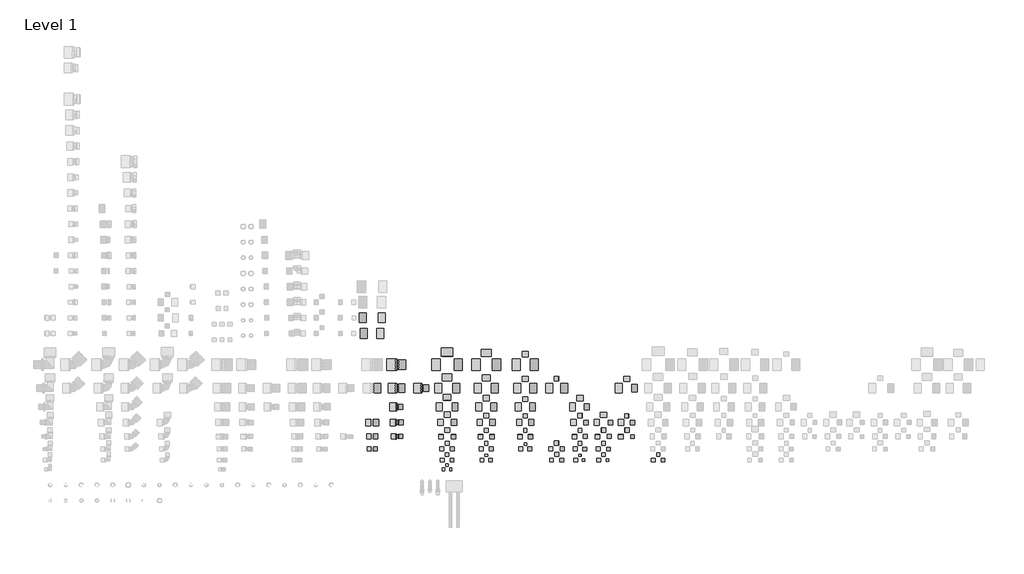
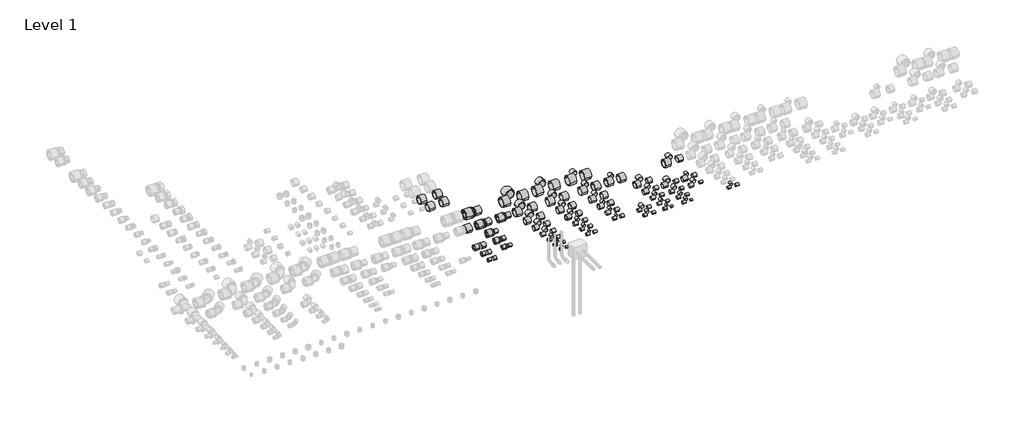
# One storey, part 4 of 6: 140 pipe fittings.
"""IFC4 building model written with IfcOpenShell, lengths in millimetres."""

from ifc_helpers import new_model, si_unit, origin, place, context, project, spatial, transform, mapped, element, save
from components import pipe_fitting_fca7ca8d, pipe_fitting_709f2c42, pipe_fitting_0746f0ab, pipe_fitting_6fe5a3bb, pipe_fitting_396ce9a4, pipe_fitting_1876d1a3, pipe_fitting_37e15ff8, pipe_fitting_5c01712a, pipe_fitting_b25a488c, pipe_fitting_fb40a9e9, pipe_fitting_0c5808d9, pipe_fitting_c324f43b, pipe_fitting_f25a30e4, pipe_fitting_75713d5f, pipe_fitting_c9c9eba3, pipe_fitting_749d9a03, pipe_fitting_037c3912, pipe_fitting_a8fbe6ac, pipe_fitting_d8f8e9d9, pipe_fitting_02b715f6, pipe_fitting_7a5bf8d1, pipe_fitting_cb618aad

model = new_model("IFC4")

# Units and contexts
model_context = context("Model", 3, world=origin())
ifc_project = project(units=[si_unit("LENGTHUNIT", "METRE", prefix="MILLI")], contexts=[model_context])

# Site, building, storey
site = spatial("IfcSite", under=ifc_project)
building = spatial("IfcBuilding", under=site)
storey = spatial("IfcBuildingStorey", under=building, Name="Level 1", Elevation=0.0)

# Pipe fittings
placement = place(None, origin())
pipe_fitting_shape = pipe_fitting_fca7ca8d(model_context)
element("IfcPipeFitting", 1, ObjectType="RAUTITAN_Transition_RX+ : RTI RX+ Tr DE", at=placement, inside=storey, context=model_context, shape_type="MappedRepresentation", body=[
    mapped(pipe_fitting_shape, transform((2220.0, 300.0, 0.0), x_axis=(1.0, 0.0, 0.0), y_axis=(0.0, 1.0, 0.0), z_axis=(0.0, 0.0, 1.0))),
])
pipe_fitting_2_shape = pipe_fitting_709f2c42(model_context)
element("IfcPipeFitting", 2, ObjectType="RAUTITAN_Sleeve SDR 7,4 : RTI S SDR 7,4", at=placement, inside=storey, context=model_context, shape_type="MappedRepresentation", body=[
    mapped(pipe_fitting_2_shape, transform((2555.5, 0.0, 0.0), x_axis=(1.0, 0.0, 0.0), y_axis=(0.0, 1.0, 0.0), z_axis=(0.0, 0.0, 1.0))),
])
element("IfcPipeFitting", 3, ObjectType="RAUTITAN_Sleeve SDR 7,4 : RTI S SDR 7,4", at=placement, inside=storey, context=model_context, shape_type="MappedRepresentation", body=[
    mapped(pipe_fitting_2_shape, transform((2524.5, 0.0, 0.0), x_axis=(-1.0, 0.0, 0.0), y_axis=(0.0, -1.0, 0.0), z_axis=(0.0, 0.0, 1.0))),
])
element("IfcPipeFitting", 4, ObjectType="RAUTITAN_Sleeve SDR 7,4 : RTI S SDR 7,4", at=placement, inside=storey, context=model_context, shape_type="MappedRepresentation", body=[
    mapped(pipe_fitting_2_shape, transform((2540.0, 20.0, 0.0), x_axis=(0.0, 1.0, 0.0), y_axis=(-1.0, 0.0, 0.0), z_axis=(0.0, 0.0, 1.0))),
])
element("IfcPipeFitting", 5, ObjectType="RAUTITAN_Sleeve SDR 7,4 : RTI S SDR 7,4", at=placement, inside=storey, context=model_context, shape_type="MappedRepresentation", body=[
    mapped(pipe_fitting_2_shape, transform((2790.0, 82.0, 0.0), x_axis=(0.0, 1.0, 0.0), y_axis=(-1.0, 0.0, 0.0), z_axis=(0.0, 0.0, 1.0))),
])
element("IfcPipeFitting", 6, ObjectType="RAUTITAN_Sleeve SDR 7,4 : RTI S SDR 7,4", at=placement, inside=storey, context=model_context, shape_type="MappedRepresentation", body=[
    mapped(pipe_fitting_2_shape, transform((3040.0, 153.4, 0.0), x_axis=(0.0, 1.0, 0.0), y_axis=(-1.0, 0.0, 0.0), z_axis=(0.0, 0.0, 1.0))),
])
element("IfcPipeFitting", 7, ObjectType="RAUTITAN_Sleeve SDR 7,4 : RTI S SDR 7,4", at=placement, inside=storey, context=model_context, shape_type="MappedRepresentation", body=[
    mapped(pipe_fitting_2_shape, transform((3405.5, 60.0, 0.0), x_axis=(1.0, 0.0, 0.0), y_axis=(0.0, 1.0, 0.0), z_axis=(0.0, 0.0, 1.0))),
])
element("IfcPipeFitting", 8, ObjectType="RAUTITAN_Sleeve SDR 7,4 : RTI S SDR 7,4", at=placement, inside=storey, context=model_context, shape_type="MappedRepresentation", body=[
    mapped(pipe_fitting_2_shape, transform((3390.0, 82.0, 0.0), x_axis=(0.0, 1.0, 0.0), y_axis=(-1.0, 0.0, 0.0), z_axis=(0.0, 0.0, 1.0))),
])
element("IfcPipeFitting", 9, ObjectType="RAUTITAN_Sleeve SDR 7,4 : RTI S SDR 7,4", at=placement, inside=storey, context=model_context, shape_type="MappedRepresentation", body=[
    mapped(pipe_fitting_2_shape, transform((3558.3, 60.0, 0.0), x_axis=(1.0, 0.0, 0.0), y_axis=(0.0, 1.0, 0.0), z_axis=(0.0, 0.0, 1.0))),
])
pipe_fitting_3_shape = pipe_fitting_0746f0ab(model_context)
element("IfcPipeFitting", 10, ObjectType="RAUTITAN_Sleeve SDR 7,4 : RTI S SDR 7,4", at=placement, inside=storey, context=model_context, shape_type="MappedRepresentation", body=[
    mapped(pipe_fitting_3_shape, transform((2558.6, 60.0, 0.0), x_axis=(1.0, 0.0, 0.0), y_axis=(0.0, 1.0, 0.0), z_axis=(0.0, 0.0, 1.0))),
])
element("IfcPipeFitting", 11, ObjectType="RAUTITAN_Sleeve SDR 7,4 : RTI S SDR 7,4", at=placement, inside=storey, context=model_context, shape_type="MappedRepresentation", body=[
    mapped(pipe_fitting_3_shape, transform((2521.4, 60.0, 0.0), x_axis=(-1.0, 0.0, 0.0), y_axis=(0.0, -1.0, 0.0), z_axis=(0.0, 0.0, 1.0))),
])
element("IfcPipeFitting", 12, ObjectType="RAUTITAN_Sleeve SDR 7,4 : RTI S SDR 7,4", at=placement, inside=storey, context=model_context, shape_type="MappedRepresentation", body=[
    mapped(pipe_fitting_3_shape, transform((2540.0, 82.3, 0.0), x_axis=(0.0, 1.0, 0.0), y_axis=(-1.0, 0.0, 0.0), z_axis=(0.0, 0.0, 1.0))),
])
element("IfcPipeFitting", 13, ObjectType="RAUTITAN_Sleeve SDR 7,4 : RTI S SDR 7,4", at=placement, inside=storey, context=model_context, shape_type="MappedRepresentation", body=[
    mapped(pipe_fitting_3_shape, transform((2805.6, 60.0, 0.0), x_axis=(1.0, 0.0, 0.0), y_axis=(0.0, 1.0, 0.0), z_axis=(0.0, 0.0, 1.0))),
])
element("IfcPipeFitting", 14, ObjectType="RAUTITAN_Sleeve SDR 7,4 : RTI S SDR 7,4", at=placement, inside=storey, context=model_context, shape_type="MappedRepresentation", body=[
    mapped(pipe_fitting_3_shape, transform((2774.4, 60.0, 0.0), x_axis=(-1.0, 0.0, 0.0), y_axis=(0.0, -1.0, 0.0), z_axis=(0.0, 0.0, 1.0))),
])
element("IfcPipeFitting", 15, ObjectType="RAUTITAN_Sleeve SDR 7,4 : RTI S SDR 7,4", at=placement, inside=storey, context=model_context, shape_type="MappedRepresentation", body=[
    mapped(pipe_fitting_3_shape, transform((2790.0, 153.7, 0.0), x_axis=(0.0, 1.0, 0.0), y_axis=(-1.0, 0.0, 0.0), z_axis=(0.0, 0.0, 1.0))),
])
element("IfcPipeFitting", 16, ObjectType="RAUTITAN_Sleeve SDR 7,4 : RTI S SDR 7,4", at=placement, inside=storey, context=model_context, shape_type="MappedRepresentation", body=[
    mapped(pipe_fitting_3_shape, transform((3040.0, 236.7, 0.0), x_axis=(0.0, 1.0, 0.0), y_axis=(-1.0, 0.0, 0.0), z_axis=(0.0, 0.0, 1.0))),
])
element("IfcPipeFitting", 17, ObjectType="RAUTITAN_Sleeve SDR 7,4 : RTI S SDR 7,4", at=placement, inside=storey, context=model_context, shape_type="MappedRepresentation", body=[
    mapped(pipe_fitting_3_shape, transform((3374.4, 60.0, 0.0), x_axis=(-1.0, 0.0, 0.0), y_axis=(0.0, -1.0, 0.0), z_axis=(0.0, 0.0, 1.0))),
])
element("IfcPipeFitting", 18, ObjectType="RAUTITAN_Sleeve SDR 7,4 : RTI S SDR 7,4", at=placement, inside=storey, context=model_context, shape_type="MappedRepresentation", body=[
    mapped(pipe_fitting_3_shape, transform((3521.4, 60.0, 0.0), x_axis=(-1.0, 0.0, 0.0), y_axis=(0.0, -1.0, 0.0), z_axis=(0.0, 0.0, 1.0))),
])
element("IfcPipeFitting", 19, ObjectType="RAUTITAN_Sleeve SDR 7,4 : RTI S SDR 7,4", at=placement, inside=storey, context=model_context, shape_type="MappedRepresentation", body=[
    mapped(pipe_fitting_3_shape, transform((3540.0, 82.3, 0.0), x_axis=(0.0, 1.0, 0.0), y_axis=(-1.0, 0.0, 0.0), z_axis=(0.0, 0.0, 1.0))),
])
element("IfcPipeFitting", 20, ObjectType="RAUTITAN_Sleeve SDR 7,4 : RTI S SDR 7,4", at=placement, inside=storey, context=model_context, shape_type="MappedRepresentation", body=[
    mapped(pipe_fitting_3_shape, transform((3714.1, 210.0, 0.0), x_axis=(1.0, 0.0, 0.0), y_axis=(0.0, 1.0, 0.0), z_axis=(0.0, 0.0, 1.0))),
])
pipe_fitting_4_shape = pipe_fitting_6fe5a3bb(model_context)
element("IfcPipeFitting", 21, ObjectType="RAUTITAN_Sleeve SDR 7,4 : RTI S SDR 7,4", at=placement, inside=storey, context=model_context, shape_type="MappedRepresentation", body=[
    mapped(pipe_fitting_4_shape, transform((2561.1, 130.0, 0.0), x_axis=(1.0, 0.0, 0.0), y_axis=(0.0, 1.0, 0.0), z_axis=(0.0, 0.0, 1.0))),
])
element("IfcPipeFitting", 22, ObjectType="RAUTITAN_Sleeve SDR 7,4 : RTI S SDR 7,4", at=placement, inside=storey, context=model_context, shape_type="MappedRepresentation", body=[
    mapped(pipe_fitting_4_shape, transform((2518.9, 130.0, 0.0), x_axis=(-1.0, 0.0, 0.0), y_axis=(0.0, -1.0, 0.0), z_axis=(0.0, 0.0, 1.0))),
])
element("IfcPipeFitting", 23, ObjectType="RAUTITAN_Sleeve SDR 7,4 : RTI S SDR 7,4", at=placement, inside=storey, context=model_context, shape_type="MappedRepresentation", body=[
    mapped(pipe_fitting_4_shape, transform((2540.0, 154.2, 0.0), x_axis=(0.0, 1.0, 0.0), y_axis=(-1.0, 0.0, 0.0), z_axis=(0.0, 0.0, 1.0))),
])
element("IfcPipeFitting", 24, ObjectType="RAUTITAN_Sleeve SDR 7,4 : RTI S SDR 7,4", at=placement, inside=storey, context=model_context, shape_type="MappedRepresentation", body=[
    mapped(pipe_fitting_4_shape, transform((2809.1, 130.0, 0.0), x_axis=(1.0, 0.0, 0.0), y_axis=(0.0, 1.0, 0.0), z_axis=(0.0, 0.0, 1.0))),
])
element("IfcPipeFitting", 25, ObjectType="RAUTITAN_Sleeve SDR 7,4 : RTI S SDR 7,4", at=placement, inside=storey, context=model_context, shape_type="MappedRepresentation", body=[
    mapped(pipe_fitting_4_shape, transform((2770.9, 130.0, 0.0), x_axis=(-1.0, 0.0, 0.0), y_axis=(0.0, -1.0, 0.0), z_axis=(0.0, 0.0, 1.0))),
])
element("IfcPipeFitting", 26, ObjectType="RAUTITAN_Sleeve SDR 7,4 : RTI S SDR 7,4", at=placement, inside=storey, context=model_context, shape_type="MappedRepresentation", body=[
    mapped(pipe_fitting_4_shape, transform((2790.0, 237.2, 0.0), x_axis=(0.0, 1.0, 0.0), y_axis=(-1.0, 0.0, 0.0), z_axis=(0.0, 0.0, 1.0))),
])
element("IfcPipeFitting", 27, ObjectType="RAUTITAN_Sleeve SDR 7,4 : RTI S SDR 7,4", at=placement, inside=storey, context=model_context, shape_type="MappedRepresentation", body=[
    mapped(pipe_fitting_4_shape, transform((3056.1, 130.0, 0.0), x_axis=(1.0, 0.0, 0.0), y_axis=(0.0, 1.0, 0.0), z_axis=(0.0, 0.0, 1.0))),
])
element("IfcPipeFitting", 28, ObjectType="RAUTITAN_Sleeve SDR 7,4 : RTI S SDR 7,4", at=placement, inside=storey, context=model_context, shape_type="MappedRepresentation", body=[
    mapped(pipe_fitting_4_shape, transform((3023.9, 130.0, 0.0), x_axis=(-1.0, 0.0, 0.0), y_axis=(0.0, -1.0, 0.0), z_axis=(0.0, 0.0, 1.0))),
])
element("IfcPipeFitting", 29, ObjectType="RAUTITAN_Sleeve SDR 7,4 : RTI S SDR 7,4", at=placement, inside=storey, context=model_context, shape_type="MappedRepresentation", body=[
    mapped(pipe_fitting_4_shape, transform((3411.1, 210.0, 0.0), x_axis=(1.0, 0.0, 0.0), y_axis=(0.0, 1.0, 0.0), z_axis=(0.0, 0.0, 1.0))),
])
element("IfcPipeFitting", 30, ObjectType="RAUTITAN_Sleeve SDR 7,4 : RTI S SDR 7,4", at=placement, inside=storey, context=model_context, shape_type="MappedRepresentation", body=[
    mapped(pipe_fitting_4_shape, transform((3390.0, 237.2, 0.0), x_axis=(0.0, 1.0, 0.0), y_axis=(-1.0, 0.0, 0.0), z_axis=(0.0, 0.0, 1.0))),
])
element("IfcPipeFitting", 31, ObjectType="RAUTITAN_Sleeve SDR 7,4 : RTI S SDR 7,4", at=placement, inside=storey, context=model_context, shape_type="MappedRepresentation", body=[
    mapped(pipe_fitting_4_shape, transform((3564.6, 210.0, 0.0), x_axis=(1.0, 0.0, 0.0), y_axis=(0.0, 1.0, 0.0), z_axis=(0.0, 0.0, 1.0))),
])
pipe_fitting_5_shape = pipe_fitting_396ce9a4(model_context)
element("IfcPipeFitting", 32, ObjectType="RAUTITAN_Sleeve SDR 7,4 : RTI S SDR 7,4", at=placement, inside=storey, context=model_context, shape_type="MappedRepresentation", body=[
    mapped(pipe_fitting_5_shape, transform((2565.0, 210.0, 0.0), x_axis=(1.0, 0.0, 0.0), y_axis=(0.0, 1.0, 0.0), z_axis=(0.0, 0.0, 1.0))),
])
element("IfcPipeFitting", 33, ObjectType="RAUTITAN_Sleeve SDR 7,4 : RTI S SDR 7,4", at=placement, inside=storey, context=model_context, shape_type="MappedRepresentation", body=[
    mapped(pipe_fitting_5_shape, transform((2515.0, 210.0, 0.0), x_axis=(-1.0, 0.0, 0.0), y_axis=(0.0, -1.0, 0.0), z_axis=(0.0, 0.0, 1.0))),
])
element("IfcPipeFitting", 34, ObjectType="RAUTITAN_Sleeve SDR 7,4 : RTI S SDR 7,4", at=placement, inside=storey, context=model_context, shape_type="MappedRepresentation", body=[
    mapped(pipe_fitting_5_shape, transform((2540.0, 237.6, 0.0), x_axis=(0.0, 1.0, 0.0), y_axis=(-1.0, 0.0, 0.0), z_axis=(0.0, 0.0, 1.0))),
])
element("IfcPipeFitting", 35, ObjectType="RAUTITAN_Sleeve SDR 7,4 : RTI S SDR 7,4", at=placement, inside=storey, context=model_context, shape_type="MappedRepresentation", body=[
    mapped(pipe_fitting_5_shape, transform((2811.5, 210.0, 0.0), x_axis=(1.0, 0.0, 0.0), y_axis=(0.0, 1.0, 0.0), z_axis=(0.0, 0.0, 1.0))),
])
element("IfcPipeFitting", 36, ObjectType="RAUTITAN_Sleeve SDR 7,4 : RTI S SDR 7,4", at=placement, inside=storey, context=model_context, shape_type="MappedRepresentation", body=[
    mapped(pipe_fitting_5_shape, transform((2768.5, 210.0, 0.0), x_axis=(-1.0, 0.0, 0.0), y_axis=(0.0, -1.0, 0.0), z_axis=(0.0, 0.0, 1.0))),
])
element("IfcPipeFitting", 37, ObjectType="RAUTITAN_Sleeve SDR 7,4 : RTI S SDR 7,4", at=placement, inside=storey, context=model_context, shape_type="MappedRepresentation", body=[
    mapped(pipe_fitting_5_shape, transform((2790.0, 330.6, 0.0), x_axis=(0.0, 1.0, 0.0), y_axis=(-1.0, 0.0, 0.0), z_axis=(0.0, 0.0, 1.0))),
])
element("IfcPipeFitting", 38, ObjectType="RAUTITAN_Sleeve SDR 7,4 : RTI S SDR 7,4", at=placement, inside=storey, context=model_context, shape_type="MappedRepresentation", body=[
    mapped(pipe_fitting_5_shape, transform((3059.5, 210.0, 0.0), x_axis=(1.0, 0.0, 0.0), y_axis=(0.0, 1.0, 0.0), z_axis=(0.0, 0.0, 1.0))),
])
element("IfcPipeFitting", 39, ObjectType="RAUTITAN_Sleeve SDR 7,4 : RTI S SDR 7,4", at=placement, inside=storey, context=model_context, shape_type="MappedRepresentation", body=[
    mapped(pipe_fitting_5_shape, transform((3020.5, 210.0, 0.0), x_axis=(-1.0, 0.0, 0.0), y_axis=(0.0, -1.0, 0.0), z_axis=(0.0, 0.0, 1.0))),
])
element("IfcPipeFitting", 40, ObjectType="RAUTITAN_Sleeve SDR 7,4 : RTI S SDR 7,4", at=placement, inside=storey, context=model_context, shape_type="MappedRepresentation", body=[
    mapped(pipe_fitting_5_shape, transform((3368.5, 210.0, 0.0), x_axis=(-1.0, 0.0, 0.0), y_axis=(0.0, -1.0, 0.0), z_axis=(0.0, 0.0, 1.0))),
])
element("IfcPipeFitting", 41, ObjectType="RAUTITAN_Sleeve SDR 7,4 : RTI S SDR 7,4", at=placement, inside=storey, context=model_context, shape_type="MappedRepresentation", body=[
    mapped(pipe_fitting_5_shape, transform((3415.0, 300.0, 0.0), x_axis=(1.0, 0.0, 0.0), y_axis=(0.0, 1.0, 0.0), z_axis=(0.0, 0.0, 1.0))),
])
element("IfcPipeFitting", 42, ObjectType="RAUTITAN_Sleeve SDR 7,4 : RTI S SDR 7,4", at=placement, inside=storey, context=model_context, shape_type="MappedRepresentation", body=[
    mapped(pipe_fitting_5_shape, transform((3390.0, 330.6, 0.0), x_axis=(0.0, 1.0, 0.0), y_axis=(-1.0, 0.0, 0.0), z_axis=(0.0, 0.0, 1.0))),
])
element("IfcPipeFitting", 43, ObjectType="RAUTITAN_Sleeve SDR 7,4 : RTI S SDR 7,4", at=placement, inside=storey, context=model_context, shape_type="MappedRepresentation", body=[
    mapped(pipe_fitting_5_shape, transform((3515.0, 210.0, 0.0), x_axis=(-1.0, 0.0, 0.0), y_axis=(0.0, -1.0, 0.0), z_axis=(0.0, 0.0, 1.0))),
])
element("IfcPipeFitting", 44, ObjectType="RAUTITAN_Sleeve SDR 7,4 : RTI S SDR 7,4", at=placement, inside=storey, context=model_context, shape_type="MappedRepresentation", body=[
    mapped(pipe_fitting_5_shape, transform((3540.0, 237.2, 0.0), x_axis=(0.0, 1.0, 0.0), y_axis=(-1.0, 0.0, 0.0), z_axis=(0.0, 0.0, 1.0))),
])
element("IfcPipeFitting", 45, ObjectType="RAUTITAN_Sleeve SDR 7,4 : RTI S SDR 7,4", at=placement, inside=storey, context=model_context, shape_type="MappedRepresentation", body=[
    mapped(pipe_fitting_5_shape, transform((3665.0, 210.0, 0.0), x_axis=(-1.0, 0.0, 0.0), y_axis=(0.0, -1.0, 0.0), z_axis=(0.0, 0.0, 1.0))),
])
element("IfcPipeFitting", 46, ObjectType="RAUTITAN_Sleeve SDR 7,4 : RTI S SDR 7,4", at=placement, inside=storey, context=model_context, shape_type="MappedRepresentation", body=[
    mapped(pipe_fitting_5_shape, transform((3690.0, 237.6, 0.0), x_axis=(0.0, 1.0, 0.0), y_axis=(-1.0, 0.0, 0.0), z_axis=(0.0, 0.0, 1.0))),
])
pipe_fitting_6_shape = pipe_fitting_1876d1a3(model_context)
element("IfcPipeFitting", 47, ObjectType="RAUTITAN_Sleeve SDR 7,4 : RTI S SDR 7,4", at=placement, inside=storey, context=model_context, shape_type="MappedRepresentation", body=[
    mapped(pipe_fitting_6_shape, transform((2565.8, 300.0, 0.0), x_axis=(1.0, 0.0, 0.0), y_axis=(0.0, 1.0, 0.0), z_axis=(0.0, 0.0, 1.0))),
])
element("IfcPipeFitting", 48, ObjectType="RAUTITAN_Sleeve SDR 7,4 : RTI S SDR 7,4", at=placement, inside=storey, context=model_context, shape_type="MappedRepresentation", body=[
    mapped(pipe_fitting_6_shape, transform((2514.2, 300.0, 0.0), x_axis=(-1.0, 0.0, 0.0), y_axis=(0.0, -1.0, 0.0), z_axis=(0.0, 0.0, 1.0))),
])
element("IfcPipeFitting", 49, ObjectType="RAUTITAN_Sleeve SDR 7,4 : RTI S SDR 7,4", at=placement, inside=storey, context=model_context, shape_type="MappedRepresentation", body=[
    mapped(pipe_fitting_6_shape, transform((2540.0, 333.0, 0.0), x_axis=(0.0, 1.0, 0.0), y_axis=(-1.0, 0.0, 0.0), z_axis=(0.0, 0.0, 1.0))),
])
element("IfcPipeFitting", 50, ObjectType="RAUTITAN_Sleeve SDR 7,4 : RTI S SDR 7,4", at=placement, inside=storey, context=model_context, shape_type="MappedRepresentation", body=[
    mapped(pipe_fitting_6_shape, transform((2814.0, 300.0, 0.0), x_axis=(1.0, 0.0, 0.0), y_axis=(0.0, 1.0, 0.0), z_axis=(0.0, 0.0, 1.0))),
])
element("IfcPipeFitting", 51, ObjectType="RAUTITAN_Sleeve SDR 7,4 : RTI S SDR 7,4", at=placement, inside=storey, context=model_context, shape_type="MappedRepresentation", body=[
    mapped(pipe_fitting_6_shape, transform((2766.0, 300.0, 0.0), x_axis=(-1.0, 0.0, 0.0), y_axis=(0.0, -1.0, 0.0), z_axis=(0.0, 0.0, 1.0))),
])
element("IfcPipeFitting", 52, ObjectType="RAUTITAN_Sleeve SDR 7,4 : RTI S SDR 7,4", at=placement, inside=storey, context=model_context, shape_type="MappedRepresentation", body=[
    mapped(pipe_fitting_6_shape, transform((3366.0, 300.0, 0.0), x_axis=(-1.0, 0.0, 0.0), y_axis=(0.0, -1.0, 0.0), z_axis=(0.0, 0.0, 1.0))),
])
pipe_fitting_7_shape = pipe_fitting_37e15ff8(model_context)
element("IfcPipeFitting", 53, ObjectType="RAUTITAN_Sleeve SDR 7,4 : RTI S SDR 7,4", at=placement, inside=storey, context=model_context, shape_type="MappedRepresentation", body=[
    mapped(pipe_fitting_7_shape, transform((2572.3, 400.0, 0.0), x_axis=(1.0, 0.0, 0.0), y_axis=(0.0, 1.0, 0.0), z_axis=(0.0, 0.0, 1.0))),
])
element("IfcPipeFitting", 54, ObjectType="RAUTITAN_Sleeve SDR 7,4 : RTI S SDR 7,4", at=placement, inside=storey, context=model_context, shape_type="MappedRepresentation", body=[
    mapped(pipe_fitting_7_shape, transform((2507.7, 400.0, 0.0), x_axis=(-1.0, 0.0, 0.0), y_axis=(0.0, -1.0, 0.0), z_axis=(0.0, 0.0, 1.0))),
])
element("IfcPipeFitting", 55, ObjectType="RAUTITAN_Sleeve SDR 7,4 : RTI S SDR 7,4", at=placement, inside=storey, context=model_context, shape_type="MappedRepresentation", body=[
    mapped(pipe_fitting_7_shape, transform((2540.0, 443.0, 0.0), x_axis=(0.0, 1.0, 0.0), y_axis=(-1.0, 0.0, 0.0), z_axis=(0.0, 0.0, 1.0))),
])
pipe_fitting_8_shape = pipe_fitting_5c01712a(model_context)
element("IfcPipeFitting", 56, ObjectType="RAUTITAN_Sleeve SDR 7,4 : RTI S SDR 7,4", at=placement, inside=storey, context=model_context, shape_type="MappedRepresentation", body=[
    mapped(pipe_fitting_8_shape, transform((2576.0, 520.0, 0.0), x_axis=(1.0, 0.0, 0.0), y_axis=(0.0, 1.0, 0.0), z_axis=(0.0, 0.0, 1.0))),
])
element("IfcPipeFitting", 57, ObjectType="RAUTITAN_Sleeve SDR 7,4 : RTI S SDR 7,4", at=placement, inside=storey, context=model_context, shape_type="MappedRepresentation", body=[
    mapped(pipe_fitting_8_shape, transform((2504.0, 520.0, 0.0), x_axis=(-1.0, 0.0, 0.0), y_axis=(0.0, -1.0, 0.0), z_axis=(0.0, 0.0, 1.0))),
])
element("IfcPipeFitting", 58, ObjectType="RAUTITAN_Sleeve SDR 7,4 : RTI S SDR 7,4", at=placement, inside=storey, context=model_context, shape_type="MappedRepresentation", body=[
    mapped(pipe_fitting_8_shape, transform((2540.0, 566.0, 0.0), x_axis=(0.0, 1.0, 0.0), y_axis=(-1.0, 0.0, 0.0), z_axis=(0.0, 0.0, 1.0))),
])
element("IfcPipeFitting", 59, ObjectType="RAUTITAN_Sleeve SDR 7,4 : RTI S SDR 7,4", at=placement, inside=storey, context=model_context, shape_type="MappedRepresentation", body=[
    mapped(pipe_fitting_8_shape, transform((2822.0, 520.0, 0.0), x_axis=(1.0, 0.0, 0.0), y_axis=(0.0, 1.0, 0.0), z_axis=(0.0, 0.0, 1.0))),
])
element("IfcPipeFitting", 60, ObjectType="RAUTITAN_Sleeve SDR 7,4 : RTI S SDR 7,4", at=placement, inside=storey, context=model_context, shape_type="MappedRepresentation", body=[
    mapped(pipe_fitting_8_shape, transform((2758.0, 520.0, 0.0), x_axis=(-1.0, 0.0, 0.0), y_axis=(0.0, -1.0, 0.0), z_axis=(0.0, 0.0, 1.0))),
])
element("IfcPipeFitting", 61, ObjectType="RAUTITAN_Sleeve SDR 7,4 : RTI S SDR 7,4", at=placement, inside=storey, context=model_context, shape_type="MappedRepresentation", body=[
    mapped(pipe_fitting_8_shape, transform((2790.0, 723.0, 0.0), x_axis=(0.0, 1.0, 0.0), y_axis=(-1.0, 0.0, 0.0), z_axis=(0.0, 0.0, 1.0))),
])
element("IfcPipeFitting", 62, ObjectType="RAUTITAN_Sleeve SDR 7,4 : RTI S SDR 7,4", at=placement, inside=storey, context=model_context, shape_type="MappedRepresentation", body=[
    mapped(pipe_fitting_8_shape, transform((3069.5, 520.0, 0.0), x_axis=(1.0, 0.0, 0.0), y_axis=(0.0, 1.0, 0.0), z_axis=(0.0, 0.0, 1.0))),
])
element("IfcPipeFitting", 63, ObjectType="RAUTITAN_Sleeve SDR 7,4 : RTI S SDR 7,4", at=placement, inside=storey, context=model_context, shape_type="MappedRepresentation", body=[
    mapped(pipe_fitting_8_shape, transform((3010.5, 520.0, 0.0), x_axis=(-1.0, 0.0, 0.0), y_axis=(0.0, -1.0, 0.0), z_axis=(0.0, 0.0, 1.0))),
])
element("IfcPipeFitting", 64, ObjectType="RAUTITAN_Sleeve SDR 7,4 : RTI S SDR 7,4", at=placement, inside=storey, context=model_context, shape_type="MappedRepresentation", body=[
    mapped(pipe_fitting_8_shape, transform((3266.0, 520.0, 0.0), x_axis=(1.0, 0.0, 0.0), y_axis=(0.0, 1.0, 0.0), z_axis=(0.0, 0.0, 1.0))),
])
element("IfcPipeFitting", 65, ObjectType="RAUTITAN_Sleeve SDR 7,4 : RTI S SDR 7,4", at=placement, inside=storey, context=model_context, shape_type="MappedRepresentation", body=[
    mapped(pipe_fitting_8_shape, transform((3214.0, 520.0, 0.0), x_axis=(-1.0, 0.0, 0.0), y_axis=(0.0, -1.0, 0.0), z_axis=(0.0, 0.0, 1.0))),
])
pipe_fitting_9_shape = pipe_fitting_b25a488c(model_context)
element("IfcPipeFitting", 66, ObjectType="RAUTITAN_Sleeve SDR 7,4 : RTI S SDR 7,4", at=placement, inside=storey, context=model_context, shape_type="MappedRepresentation", body=[
    mapped(pipe_fitting_9_shape, transform((2584.0, 670.0, 0.0), x_axis=(1.0, 0.0, 0.0), y_axis=(0.0, 1.0, 0.0), z_axis=(0.0, 0.0, 1.0))),
])
element("IfcPipeFitting", 67, ObjectType="RAUTITAN_Sleeve SDR 7,4 : RTI S SDR 7,4", at=placement, inside=storey, context=model_context, shape_type="MappedRepresentation", body=[
    mapped(pipe_fitting_9_shape, transform((2496.0, 670.0, 0.0), x_axis=(-1.0, 0.0, 0.0), y_axis=(0.0, -1.0, 0.0), z_axis=(0.0, 0.0, 1.0))),
])
element("IfcPipeFitting", 68, ObjectType="RAUTITAN_Sleeve SDR 7,4 : RTI S SDR 7,4", at=placement, inside=storey, context=model_context, shape_type="MappedRepresentation", body=[
    mapped(pipe_fitting_9_shape, transform((2540.0, 724.5, 0.0), x_axis=(0.0, 1.0, 0.0), y_axis=(-1.0, 0.0, 0.0), z_axis=(0.0, 0.0, 1.0))),
])
element("IfcPipeFitting", 69, ObjectType="RAUTITAN_Sleeve SDR 7,4 : RTI S SDR 7,4", at=placement, inside=storey, context=model_context, shape_type="MappedRepresentation", body=[
    mapped(pipe_fitting_9_shape, transform((2828.3, 670.0, 0.0), x_axis=(1.0, 0.0, 0.0), y_axis=(0.0, 1.0, 0.0), z_axis=(0.0, 0.0, 1.0))),
])
element("IfcPipeFitting", 70, ObjectType="RAUTITAN_Sleeve SDR 7,4 : RTI S SDR 7,4", at=placement, inside=storey, context=model_context, shape_type="MappedRepresentation", body=[
    mapped(pipe_fitting_9_shape, transform((2751.7, 670.0, 0.0), x_axis=(-1.0, 0.0, 0.0), y_axis=(0.0, -1.0, 0.0), z_axis=(0.0, 0.0, 1.0))),
])
element("IfcPipeFitting", 71, ObjectType="RAUTITAN_Sleeve SDR 7,4 : RTI S SDR 7,4", at=placement, inside=storey, context=model_context, shape_type="MappedRepresentation", body=[
    mapped(pipe_fitting_9_shape, transform((3071.0, 670.0, 0.0), x_axis=(1.0, 0.0, 0.0), y_axis=(0.0, 1.0, 0.0), z_axis=(0.0, 0.0, 1.0))),
])
element("IfcPipeFitting", 72, ObjectType="RAUTITAN_Sleeve SDR 7,4 : RTI S SDR 7,4", at=placement, inside=storey, context=model_context, shape_type="MappedRepresentation", body=[
    mapped(pipe_fitting_9_shape, transform((3009.0, 670.0, 0.0), x_axis=(-1.0, 0.0, 0.0), y_axis=(0.0, -1.0, 0.0), z_axis=(0.0, 0.0, 1.0))),
])
element("IfcPipeFitting", 73, ObjectType="RAUTITAN_Sleeve SDR 7,4 : RTI S SDR 7,4", at=placement, inside=storey, context=model_context, shape_type="MappedRepresentation", body=[
    mapped(pipe_fitting_7_shape, transform((2819.5, 400.0, 0.0), x_axis=(1.0, 0.0, 0.0), y_axis=(0.0, 1.0, 0.0), z_axis=(0.0, 0.0, 1.0))),
])
element("IfcPipeFitting", 74, ObjectType="RAUTITAN_Sleeve SDR 7,4 : RTI S SDR 7,4", at=placement, inside=storey, context=model_context, shape_type="MappedRepresentation", body=[
    mapped(pipe_fitting_7_shape, transform((2760.5, 400.0, 0.0), x_axis=(-1.0, 0.0, 0.0), y_axis=(0.0, -1.0, 0.0), z_axis=(0.0, 0.0, 1.0))),
])
element("IfcPipeFitting", 75, ObjectType="RAUTITAN_Sleeve SDR 7,4 : RTI S SDR 7,4", at=placement, inside=storey, context=model_context, shape_type="MappedRepresentation", body=[
    mapped(pipe_fitting_7_shape, transform((2790.0, 566.0, 0.0), x_axis=(0.0, 1.0, 0.0), y_axis=(-1.0, 0.0, 0.0), z_axis=(0.0, 0.0, 1.0))),
])
element("IfcPipeFitting", 76, ObjectType="RAUTITAN_Sleeve SDR 7,4 : RTI S SDR 7,4", at=placement, inside=storey, context=model_context, shape_type="MappedRepresentation", body=[
    mapped(pipe_fitting_7_shape, transform((3067.0, 400.0, 0.0), x_axis=(1.0, 0.0, 0.0), y_axis=(0.0, 1.0, 0.0), z_axis=(0.0, 0.0, 1.0))),
])
element("IfcPipeFitting", 77, ObjectType="RAUTITAN_Sleeve SDR 7,4 : RTI S SDR 7,4", at=placement, inside=storey, context=model_context, shape_type="MappedRepresentation", body=[
    mapped(pipe_fitting_7_shape, transform((3013.0, 400.0, 0.0), x_axis=(-1.0, 0.0, 0.0), y_axis=(0.0, -1.0, 0.0), z_axis=(0.0, 0.0, 1.0))),
])
element("IfcPipeFitting", 78, ObjectType="RAUTITAN_Sleeve SDR 7,4 : RTI S SDR 7,4", at=placement, inside=storey, context=model_context, shape_type="MappedRepresentation", body=[
    mapped(pipe_fitting_7_shape, transform((3360.5, 400.0, 0.0), x_axis=(-1.0, 0.0, 0.0), y_axis=(0.0, -1.0, 0.0), z_axis=(0.0, 0.0, 1.0))),
])
element("IfcPipeFitting", 79, ObjectType="RAUTITAN_Sleeve SDR 7,4 : RTI S SDR 7,4", at=placement, inside=storey, context=model_context, shape_type="MappedRepresentation", body=[
    mapped(pipe_fitting_6_shape, transform((2790.0, 438.5, 0.0), x_axis=(0.0, 1.0, 0.0), y_axis=(-1.0, 0.0, 0.0), z_axis=(0.0, 0.0, 1.0))),
])
element("IfcPipeFitting", 80, ObjectType="RAUTITAN_Sleeve SDR 7,4 : RTI S SDR 7,4", at=placement, inside=storey, context=model_context, shape_type="MappedRepresentation", body=[
    mapped(pipe_fitting_6_shape, transform((3061.5, 300.0, 0.0), x_axis=(1.0, 0.0, 0.0), y_axis=(0.0, 1.0, 0.0), z_axis=(0.0, 0.0, 1.0))),
])
element("IfcPipeFitting", 81, ObjectType="RAUTITAN_Sleeve SDR 7,4 : RTI S SDR 7,4", at=placement, inside=storey, context=model_context, shape_type="MappedRepresentation", body=[
    mapped(pipe_fitting_6_shape, transform((3018.5, 300.0, 0.0), x_axis=(-1.0, 0.0, 0.0), y_axis=(0.0, -1.0, 0.0), z_axis=(0.0, 0.0, 1.0))),
])
element("IfcPipeFitting", 82, ObjectType="RAUTITAN_Sleeve SDR 7,4 : RTI S SDR 7,4", at=placement, inside=storey, context=model_context, shape_type="MappedRepresentation", body=[
    mapped(pipe_fitting_6_shape, transform((3040.0, 562.0, 0.0), x_axis=(0.0, 1.0, 0.0), y_axis=(-1.0, 0.0, 0.0), z_axis=(0.0, 0.0, 1.0))),
])
element("IfcPipeFitting", 83, ObjectType="RAUTITAN_Sleeve SDR 7,4 : RTI S SDR 7,4", at=placement, inside=storey, context=model_context, shape_type="MappedRepresentation", body=[
    mapped(pipe_fitting_6_shape, transform((3040.0, 720.0, 0.0), x_axis=(0.0, 1.0, 0.0), y_axis=(-1.0, 0.0, 0.0), z_axis=(0.0, 0.0, 1.0))),
])
element("IfcPipeFitting", 84, ObjectType="RAUTITAN_Sleeve SDR 7,4 : RTI S SDR 7,4", at=placement, inside=storey, context=model_context, shape_type="MappedRepresentation", body=[
    mapped(pipe_fitting_6_shape, transform((3415.8, 400.0, 0.0), x_axis=(1.0, 0.0, 0.0), y_axis=(0.0, 1.0, 0.0), z_axis=(0.0, 0.0, 1.0))),
])
element("IfcPipeFitting", 85, ObjectType="RAUTITAN_Sleeve SDR 7,4 : RTI S SDR 7,4", at=placement, inside=storey, context=model_context, shape_type="MappedRepresentation", body=[
    mapped(pipe_fitting_6_shape, transform((3390.0, 438.5, 0.0), x_axis=(0.0, 1.0, 0.0), y_axis=(-1.0, 0.0, 0.0), z_axis=(0.0, 0.0, 1.0))),
])
element("IfcPipeFitting", 86, ObjectType="RAUTITAN_Sleeve SDR 7,4 : RTI S SDR 7,4", at=placement, inside=storey, context=model_context, shape_type="MappedRepresentation", body=[
    mapped(pipe_fitting_6_shape, transform((3514.2, 300.0, 0.0), x_axis=(-1.0, 0.0, 0.0), y_axis=(0.0, -1.0, 0.0), z_axis=(0.0, 0.0, 1.0))),
])
element("IfcPipeFitting", 87, ObjectType="RAUTITAN_Sleeve SDR 7,4 : RTI S SDR 7,4", at=placement, inside=storey, context=model_context, shape_type="MappedRepresentation", body=[
    mapped(pipe_fitting_6_shape, transform((3540.0, 331.4, 0.0), x_axis=(0.0, 1.0, 0.0), y_axis=(-1.0, 0.0, 0.0), z_axis=(0.0, 0.0, 1.0))),
])
element("IfcPipeFitting", 88, ObjectType="RAUTITAN_Sleeve SDR 7,4 : RTI S SDR 7,4", at=placement, inside=storey, context=model_context, shape_type="MappedRepresentation", body=[
    mapped(pipe_fitting_5_shape, transform((3040.0, 436.2, 0.0), x_axis=(0.0, 1.0, 0.0), y_axis=(-1.0, 0.0, 0.0), z_axis=(0.0, 0.0, 1.0))),
])
element("IfcPipeFitting", 89, ObjectType="RAUTITAN_Sleeve SDR 7,4 : RTI S SDR 7,4", at=placement, inside=storey, context=model_context, shape_type="MappedRepresentation", body=[
    mapped(pipe_fitting_5_shape, transform((3240.0, 565.2, 0.0), x_axis=(0.0, 1.0, 0.0), y_axis=(-1.0, 0.0, 0.0), z_axis=(0.0, 0.0, 1.0))),
])
element("IfcPipeFitting", 90, ObjectType="RAUTITAN_Sleeve SDR 7,4 : RTI S SDR 7,4", at=placement, inside=storey, context=model_context, shape_type="MappedRepresentation", body=[
    mapped(pipe_fitting_5_shape, transform((3240.0, 154.7, 0.0), x_axis=(0.0, 1.0, 0.0), y_axis=(-1.0, 0.0, 0.0), z_axis=(0.0, 0.0, 1.0))),
])
element("IfcPipeFitting", 91, ObjectType="RAUTITAN_Sleeve SDR 7,4 : RTI S SDR 7,4", at=placement, inside=storey, context=model_context, shape_type="MappedRepresentation", body=[
    mapped(pipe_fitting_5_shape, transform((3570.6, 300.0, 0.0), x_axis=(1.0, 0.0, 0.0), y_axis=(0.0, 1.0, 0.0), z_axis=(0.0, 0.0, 1.0))),
])
element("IfcPipeFitting", 92, ObjectType="RAUTITAN_Sleeve SDR 7,4 : RTI S SDR 7,4", at=placement, inside=storey, context=model_context, shape_type="MappedRepresentation", body=[
    mapped(pipe_fitting_4_shape, transform((3040.0, 330.2, 0.0), x_axis=(0.0, 1.0, 0.0), y_axis=(-1.0, 0.0, 0.0), z_axis=(0.0, 0.0, 1.0))),
])
element("IfcPipeFitting", 93, ObjectType="RAUTITAN_Sleeve SDR 7,4 : RTI S SDR 7,4", at=placement, inside=storey, context=model_context, shape_type="MappedRepresentation", body=[
    mapped(pipe_fitting_4_shape, transform((3264.6, 130.0, 0.0), x_axis=(1.0, 0.0, 0.0), y_axis=(0.0, 1.0, 0.0), z_axis=(0.0, 0.0, 1.0))),
])
element("IfcPipeFitting", 94, ObjectType="RAUTITAN_Sleeve SDR 7,4 : RTI S SDR 7,4", at=placement, inside=storey, context=model_context, shape_type="MappedRepresentation", body=[
    mapped(pipe_fitting_4_shape, transform((3215.4, 130.0, 0.0), x_axis=(-1.0, 0.0, 0.0), y_axis=(0.0, -1.0, 0.0), z_axis=(0.0, 0.0, 1.0))),
])
pipe_fitting_10_shape = pipe_fitting_fb40a9e9(model_context)
element("IfcPipeFitting", 95, ObjectType="RAUTITAN_Transition_RX+ : RTI RX+ Tr DE", at=placement, inside=storey, context=model_context, shape_type="MappedRepresentation", body=[
    mapped(pipe_fitting_10_shape, transform((2220.0, 670.0, 0.0), x_axis=(1.0, 0.0, 0.0), y_axis=(0.0, 1.0, 0.0), z_axis=(0.0, 0.0, 1.0))),
])
pipe_fitting_11_shape = pipe_fitting_0c5808d9(model_context)
element("IfcPipeFitting", 96, ObjectType="RAUTITAN_Transition_RX+ : RTI RX+ Tr DE", at=placement, inside=storey, context=model_context, shape_type="MappedRepresentation", body=[
    mapped(pipe_fitting_11_shape, transform((2220.0, 520.0, 0.0), x_axis=(1.0, 0.0, 0.0), y_axis=(0.0, 1.0, 0.0), z_axis=(0.0, 0.0, 1.0))),
])
pipe_fitting_12_shape = pipe_fitting_c324f43b(model_context)
element("IfcPipeFitting", 97, ObjectType="RAUTITAN_Transition_RX+ : RTI RX+ Tr DE", at=placement, inside=storey, context=model_context, shape_type="MappedRepresentation", body=[
    mapped(pipe_fitting_12_shape, transform((2380.0, 520.0, 0.0), x_axis=(1.0, 0.0, 0.0), y_axis=(0.0, 1.0, 0.0), z_axis=(0.0, 0.0, 1.0))),
])
pipe_fitting_13_shape = pipe_fitting_f25a30e4(model_context)
element("IfcPipeFitting", 98, ObjectType="RAUTITAN_Transition_RX+ : RTI RX+ Tr DE", at=placement, inside=storey, context=model_context, shape_type="MappedRepresentation", body=[
    mapped(pipe_fitting_13_shape, transform((2220.0, 400.0, 0.0), x_axis=(1.0, 0.0, 0.0), y_axis=(0.0, 1.0, 0.0), z_axis=(0.0, 0.0, 1.0))),
])
pipe_fitting_14_shape = pipe_fitting_75713d5f(model_context)
element("IfcPipeFitting", 99, ObjectType="RAUTITAN_Transition_RX+ : RTI RX+ Tr DE", at=placement, inside=storey, context=model_context, shape_type="MappedRepresentation", body=[
    mapped(pipe_fitting_14_shape, transform((2220.0, 210.0, 0.0), x_axis=(1.0, 0.0, 0.0), y_axis=(0.0, 1.0, 0.0), z_axis=(0.0, 0.0, 1.0))),
])
element("IfcPipeFitting", 100, ObjectType="RAUTITAN_Sleeve SDR 7,4 : RTI S SDR 7,4", at=placement, inside=storey, context=model_context, shape_type="MappedRepresentation", body=[
    mapped(pipe_fitting_3_shape, transform((3260.6, 60.0, 0.0), x_axis=(1.0, 0.0, 0.0), y_axis=(0.0, 1.0, 0.0), z_axis=(0.0, 0.0, 1.0))),
])
element("IfcPipeFitting", 101, ObjectType="RAUTITAN_Sleeve SDR 7,4 : RTI S SDR 7,4", at=placement, inside=storey, context=model_context, shape_type="MappedRepresentation", body=[
    mapped(pipe_fitting_3_shape, transform((3219.4, 60.0, 0.0), x_axis=(-1.0, 0.0, 0.0), y_axis=(0.0, -1.0, 0.0), z_axis=(0.0, 0.0, 1.0))),
])
element("IfcPipeFitting", 102, ObjectType="RAUTITAN_Sleeve SDR 7,4 : RTI S SDR 7,4", at=placement, inside=storey, context=model_context, shape_type="MappedRepresentation", body=[
    mapped(pipe_fitting_3_shape, transform((3408.6, 130.0, 0.0), x_axis=(1.0, 0.0, 0.0), y_axis=(0.0, 1.0, 0.0), z_axis=(0.0, 0.0, 1.0))),
])
element("IfcPipeFitting", 103, ObjectType="RAUTITAN_Sleeve SDR 7,4 : RTI S SDR 7,4", at=placement, inside=storey, context=model_context, shape_type="MappedRepresentation", body=[
    mapped(pipe_fitting_3_shape, transform((3390.0, 153.7, 0.0), x_axis=(0.0, 1.0, 0.0), y_axis=(-1.0, 0.0, 0.0), z_axis=(0.0, 0.0, 1.0))),
])
element("IfcPipeFitting", 104, ObjectType="RAUTITAN_Sleeve SDR 7,4 : RTI S SDR 7,4", at=placement, inside=storey, context=model_context, shape_type="MappedRepresentation", body=[
    mapped(pipe_fitting_3_shape, transform((3560.6, 130.0, 0.0), x_axis=(1.0, 0.0, 0.0), y_axis=(0.0, 1.0, 0.0), z_axis=(0.0, 0.0, 1.0))),
])
element("IfcPipeFitting", 105, ObjectType="RAUTITAN_Sleeve SDR 7,4 : RTI S SDR 7,4", at=placement, inside=storey, context=model_context, shape_type="MappedRepresentation", body=[
    mapped(pipe_fitting_4_shape, transform((3240.0, 82.5, 0.0), x_axis=(0.0, 1.0, 0.0), y_axis=(-1.0, 0.0, 0.0), z_axis=(0.0, 0.0, 1.0))),
])
element("IfcPipeFitting", 106, ObjectType="RAUTITAN_Sleeve SDR 7,4 : RTI S SDR 7,4", at=placement, inside=storey, context=model_context, shape_type="MappedRepresentation", body=[
    mapped(pipe_fitting_4_shape, transform((3370.9, 130.0, 0.0), x_axis=(-1.0, 0.0, 0.0), y_axis=(0.0, -1.0, 0.0), z_axis=(0.0, 0.0, 1.0))),
])
element("IfcPipeFitting", 107, ObjectType="RAUTITAN_Sleeve SDR 7,4 : RTI S SDR 7,4", at=placement, inside=storey, context=model_context, shape_type="MappedRepresentation", body=[
    mapped(pipe_fitting_4_shape, transform((3518.9, 130.0, 0.0), x_axis=(-1.0, 0.0, 0.0), y_axis=(0.0, -1.0, 0.0), z_axis=(0.0, 0.0, 1.0))),
])
element("IfcPipeFitting", 108, ObjectType="RAUTITAN_Sleeve SDR 7,4 : RTI S SDR 7,4", at=placement, inside=storey, context=model_context, shape_type="MappedRepresentation", body=[
    mapped(pipe_fitting_4_shape, transform((3540.0, 154.2, 0.0), x_axis=(0.0, 1.0, 0.0), y_axis=(-1.0, 0.0, 0.0), z_axis=(0.0, 0.0, 1.0))),
])
element("IfcPipeFitting", 109, ObjectType="RAUTITAN_Sleeve SDR 7,4 : RTI S SDR 7,4", at=placement, inside=storey, context=model_context, shape_type="MappedRepresentation", body=[
    mapped(pipe_fitting_5_shape, transform((3711.5, 300.0, 0.0), x_axis=(1.0, 0.0, 0.0), y_axis=(0.0, 1.0, 0.0), z_axis=(0.0, 0.0, 1.0))),
])
element("IfcPipeFitting", 110, ObjectType="RAUTITAN_Sleeve SDR 7,4 : RTI S SDR 7,4", at=placement, inside=storey, context=model_context, shape_type="MappedRepresentation", body=[
    mapped(pipe_fitting_6_shape, transform((3668.5, 300.0, 0.0), x_axis=(-1.0, 0.0, 0.0), y_axis=(0.0, -1.0, 0.0), z_axis=(0.0, 0.0, 1.0))),
])
element("IfcPipeFitting", 111, ObjectType="RAUTITAN_Sleeve SDR 7,4 : RTI S SDR 7,4", at=placement, inside=storey, context=model_context, shape_type="MappedRepresentation", body=[
    mapped(pipe_fitting_6_shape, transform((3690.0, 562.0, 0.0), x_axis=(0.0, 1.0, 0.0), y_axis=(-1.0, 0.0, 0.0), z_axis=(0.0, 0.0, 1.0))),
])
element("IfcPipeFitting", 112, ObjectType="RAUTITAN_Sleeve SDR 7,4 : RTI S SDR 7,4", at=placement, inside=storey, context=model_context, shape_type="MappedRepresentation", body=[
    mapped(pipe_fitting_4_shape, transform((3690.0, 330.2, 0.0), x_axis=(0.0, 1.0, 0.0), y_axis=(-1.0, 0.0, 0.0), z_axis=(0.0, 0.0, 1.0))),
])
element("IfcPipeFitting", 113, ObjectType="RAUTITAN_Sleeve SDR 7,4 : RTI S SDR 7,4", at=placement, inside=storey, context=model_context, shape_type="MappedRepresentation", body=[
    mapped(pipe_fitting_7_shape, transform((3719.5, 520.0, 0.0), x_axis=(1.0, 0.0, 0.0), y_axis=(0.0, 1.0, 0.0), z_axis=(0.0, 0.0, 1.0))),
])
element("IfcPipeFitting", 114, ObjectType="RAUTITAN_Sleeve SDR 7,4 : RTI S SDR 7,4", at=placement, inside=storey, context=model_context, shape_type="MappedRepresentation", body=[
    mapped(pipe_fitting_8_shape, transform((3660.5, 520.0, 0.0), x_axis=(-1.0, 0.0, 0.0), y_axis=(0.0, -1.0, 0.0), z_axis=(0.0, 0.0, 1.0))),
])
pipe_fitting_15_shape = pipe_fitting_c9c9eba3(model_context)
element("IfcPipeFitting", 115, ObjectType="RAUTITAN_Sleeve PX : RTI S PX", at=placement, inside=storey, context=model_context, shape_type="MappedRepresentation", body=[
    mapped(pipe_fitting_15_shape, transform((3871.0, 60.0, 0.0), x_axis=(-1.0, 0.0, 0.0), y_axis=(0.0, -1.0, 0.0), z_axis=(0.0, 0.0, 1.0))),
])
element("IfcPipeFitting", 116, ObjectType="RAUTITAN_Sleeve PX : RTI S PX", at=placement, inside=storey, context=model_context, shape_type="MappedRepresentation", body=[
    mapped(pipe_fitting_15_shape, transform((3890.0, 83.0, 0.0), x_axis=(0.0, 1.0, 0.0), y_axis=(-1.0, 0.0, 0.0), z_axis=(0.0, 0.0, 1.0))),
])
element("IfcPipeFitting", 117, ObjectType="RAUTITAN_Sleeve PX : RTI S PX", at=placement, inside=storey, context=model_context, shape_type="MappedRepresentation", body=[
    mapped(pipe_fitting_15_shape, transform((3909.0, 60.0, 0.0), x_axis=(1.0, 0.0, 0.0), y_axis=(0.0, 1.0, 0.0), z_axis=(0.0, 0.0, 1.0))),
])
pipe_fitting_16_shape = pipe_fitting_749d9a03(model_context)
element("IfcPipeFitting", 118, ObjectType="RAUTITAN_Sleeve PX : RTI S PX", at=placement, inside=storey, context=model_context, shape_type="MappedRepresentation", body=[
    mapped(pipe_fitting_16_shape, transform((2053.2, 130.0, 0.0), x_axis=(-1.0, 0.0, 0.0), y_axis=(0.0, -1.0, 0.0), z_axis=(0.0, 0.0, 1.0))),
])
element("IfcPipeFitting", 119, ObjectType="RAUTITAN_Sleeve PX : RTI S PX", at=placement, inside=storey, context=model_context, shape_type="MappedRepresentation", body=[
    mapped(pipe_fitting_16_shape, transform((2066.8, 130.0, 0.0), x_axis=(1.0, 0.0, 0.0), y_axis=(0.0, 1.0, 0.0), z_axis=(0.0, 0.0, 1.0))),
])
element("IfcPipeFitting", 120, ObjectType="RAUTITAN_Sleeve PX : RTI S PX", at=placement, inside=storey, context=model_context, shape_type="MappedRepresentation", body=[
    mapped(pipe_fitting_16_shape, transform((2229.8, 210.0, 0.0), x_axis=(1.0, 0.0, 0.0), y_axis=(0.0, 1.0, 0.0), z_axis=(0.0, 0.0, 1.0))),
])
pipe_fitting_17_shape = pipe_fitting_037c3912(model_context)
element("IfcPipeFitting", 121, ObjectType="RAUTITAN_Sleeve PX : RTI S PX", at=placement, inside=storey, context=model_context, shape_type="MappedRepresentation", body=[
    mapped(pipe_fitting_17_shape, transform((2052.8, 210.0, 0.0), x_axis=(-1.0, 0.0, 0.0), y_axis=(0.0, -1.0, 0.0), z_axis=(0.0, 0.0, 1.0))),
])
element("IfcPipeFitting", 122, ObjectType="RAUTITAN_Sleeve PX : RTI S PX", at=placement, inside=storey, context=model_context, shape_type="MappedRepresentation", body=[
    mapped(pipe_fitting_17_shape, transform((2067.2, 210.0, 0.0), x_axis=(1.0, 0.0, 0.0), y_axis=(0.0, 1.0, 0.0), z_axis=(0.0, 0.0, 1.0))),
])
element("IfcPipeFitting", 123, ObjectType="RAUTITAN_Sleeve PX : RTI S PX", at=placement, inside=storey, context=model_context, shape_type="MappedRepresentation", body=[
    mapped(pipe_fitting_17_shape, transform((2227.2, 400.0, 0.0), x_axis=(1.0, 0.0, 0.0), y_axis=(0.0, 1.0, 0.0), z_axis=(0.0, 0.0, 1.0))),
])
element("IfcPipeFitting", 124, ObjectType="RAUTITAN_Sleeve PX : RTI S PX", at=placement, inside=storey, context=model_context, shape_type="MappedRepresentation", body=[
    mapped(pipe_fitting_17_shape, transform((2230.7, 300.0, 0.0), x_axis=(1.0, 0.0, 0.0), y_axis=(0.0, 1.0, 0.0), z_axis=(0.0, 0.0, 1.0))),
])
element("IfcPipeFitting", 125, ObjectType="RAUTITAN_Sleeve PX : RTI S PX", at=placement, inside=storey, context=model_context, shape_type="MappedRepresentation", body=[
    mapped(pipe_fitting_17_shape, transform((2209.8, 210.0, 0.0), x_axis=(-1.0, 0.0, 0.0), y_axis=(0.0, -1.0, 0.0), z_axis=(0.0, 0.0, 1.0))),
])
pipe_fitting_18_shape = pipe_fitting_a8fbe6ac(model_context)
element("IfcPipeFitting", 126, ObjectType="RAUTITAN_Sleeve PX : RTI S PX", at=placement, inside=storey, context=model_context, shape_type="MappedRepresentation", body=[
    mapped(pipe_fitting_18_shape, transform((2052.0, 300.0, 0.0), x_axis=(-1.0, 0.0, 0.0), y_axis=(0.0, -1.0, 0.0), z_axis=(0.0, 0.0, 1.0))),
])
element("IfcPipeFitting", 127, ObjectType="RAUTITAN_Sleeve PX : RTI S PX", at=placement, inside=storey, context=model_context, shape_type="MappedRepresentation", body=[
    mapped(pipe_fitting_18_shape, transform((2068.0, 300.0, 0.0), x_axis=(1.0, 0.0, 0.0), y_axis=(0.0, 1.0, 0.0), z_axis=(0.0, 0.0, 1.0))),
])
element("IfcPipeFitting", 128, ObjectType="RAUTITAN_Sleeve PX : RTI S PX", at=placement, inside=storey, context=model_context, shape_type="MappedRepresentation", body=[
    mapped(pipe_fitting_18_shape, transform((2388.0, 520.0, 0.0), x_axis=(1.0, 0.0, 0.0), y_axis=(0.0, 1.0, 0.0), z_axis=(0.0, 0.0, 1.0))),
])
element("IfcPipeFitting", 129, ObjectType="RAUTITAN_Sleeve PX : RTI S PX", at=placement, inside=storey, context=model_context, shape_type="MappedRepresentation", body=[
    mapped(pipe_fitting_18_shape, transform((2208.5, 300.0, 0.0), x_axis=(-1.0, 0.0, 0.0), y_axis=(0.0, -1.0, 0.0), z_axis=(0.0, 0.0, 1.0))),
])
pipe_fitting_19_shape = pipe_fitting_d8f8e9d9(model_context)
element("IfcPipeFitting", 130, ObjectType="RAUTITAN_Sleeve PX : RTI S PX", at=placement, inside=storey, context=model_context, shape_type="MappedRepresentation", body=[
    mapped(pipe_fitting_19_shape, transform((2231.0, 520.0, 0.0), x_axis=(1.0, 0.0, 0.0), y_axis=(0.0, 1.0, 0.0), z_axis=(0.0, 0.0, 1.0))),
])
element("IfcPipeFitting", 131, ObjectType="RAUTITAN_Sleeve PX : RTI S PX", at=placement, inside=storey, context=model_context, shape_type="MappedRepresentation", body=[
    mapped(pipe_fitting_19_shape, transform((2210.0, 400.0, 0.0), x_axis=(-1.0, 0.0, 0.0), y_axis=(0.0, -1.0, 0.0), z_axis=(0.0, 0.0, 1.0))),
])
pipe_fitting_20_shape = pipe_fitting_02b715f6(model_context)
element("IfcPipeFitting", 132, ObjectType="RAUTITAN_Sleeve PX : RTI S PX", at=placement, inside=storey, context=model_context, shape_type="MappedRepresentation", body=[
    mapped(pipe_fitting_20_shape, transform((2071.0, 520.0, 0.0), x_axis=(1.0, 0.0, 0.0), y_axis=(0.0, 1.0, 0.0), z_axis=(0.0, 0.0, 1.0))),
])
element("IfcPipeFitting", 133, ObjectType="RAUTITAN_Sleeve PX : RTI S PX", at=placement, inside=storey, context=model_context, shape_type="MappedRepresentation", body=[
    mapped(pipe_fitting_20_shape, transform((2231.0, 670.0, 0.0), x_axis=(1.0, 0.0, 0.0), y_axis=(0.0, 1.0, 0.0), z_axis=(0.0, 0.0, 1.0))),
])
element("IfcPipeFitting", 134, ObjectType="RAUTITAN_Sleeve PX : RTI S PX", at=placement, inside=storey, context=model_context, shape_type="MappedRepresentation", body=[
    mapped(pipe_fitting_20_shape, transform((2209.0, 520.0, 0.0), x_axis=(-1.0, 0.0, 0.0), y_axis=(0.0, -1.0, 0.0), z_axis=(0.0, 0.0, 1.0))),
])
element("IfcPipeFitting", 135, ObjectType="RAUTITAN_Sleeve PX : RTI S PX", at=placement, inside=storey, context=model_context, shape_type="MappedRepresentation", body=[
    mapped(pipe_fitting_20_shape, transform((2370.0, 520.0, 0.0), x_axis=(-1.0, 0.0, 0.0), y_axis=(0.0, -1.0, 0.0), z_axis=(0.0, 0.0, 1.0))),
])
pipe_fitting_21_shape = pipe_fitting_7a5bf8d1(model_context)
element("IfcPipeFitting", 136, ObjectType="RAUTITAN_Sleeve PX : RTI S PX", at=placement, inside=storey, context=model_context, shape_type="MappedRepresentation", body=[
    mapped(pipe_fitting_21_shape, transform((2207.5, 670.0, 0.0), x_axis=(-1.0, 0.0, 0.0), y_axis=(0.0, -1.0, 0.0), z_axis=(0.0, 0.0, 1.0))),
])
pipe_fitting_22_shape = pipe_fitting_cb618aad(model_context)
element("IfcPipeFitting", 137, ObjectType="REHAU_RAUTITAN_Sleeve_PX : REHAU_RAUTITAN_Sleeve_PX", at=placement, inside=storey, context=model_context, shape_type="MappedRepresentation", body=[
    mapped(pipe_fitting_22_shape, transform((2029.5, 870.0, 0.0), x_axis=(-1.0, 0.0, 0.0), y_axis=(0.0, -1.0, 0.0), z_axis=(0.0, 0.0, 1.0))),
])
element("IfcPipeFitting", 138, ObjectType="REHAU_RAUTITAN_Sleeve_PX : REHAU_RAUTITAN_Sleeve_PX", at=placement, inside=storey, context=model_context, shape_type="MappedRepresentation", body=[
    mapped(pipe_fitting_22_shape, transform((2090.5, 870.0, 0.0), x_axis=(1.0, 0.0, 0.0), y_axis=(0.0, 1.0, 0.0), z_axis=(0.0, 0.0, 1.0))),
])
element("IfcPipeFitting", 139, ObjectType="REHAU_RAUTITAN_Sleeve_PX : REHAU_RAUTITAN_Sleeve_PX", at=placement, inside=storey, context=model_context, shape_type="MappedRepresentation", body=[
    mapped(pipe_fitting_22_shape, transform((2022.0, 970.0, 0.0), x_axis=(-1.0, 0.0, 0.0), y_axis=(0.0, -1.0, 0.0), z_axis=(0.0, 0.0, 1.0))),
])
element("IfcPipeFitting", 140, ObjectType="REHAU_RAUTITAN_Sleeve_PX : REHAU_RAUTITAN_Sleeve_PX", at=placement, inside=storey, context=model_context, shape_type="MappedRepresentation", body=[
    mapped(pipe_fitting_22_shape, transform((2098.0, 970.0, 0.0), x_axis=(1.0, 0.0, 0.0), y_axis=(0.0, 1.0, 0.0), z_axis=(0.0, 0.0, 1.0))),
])

save(model, "model.ifc")
